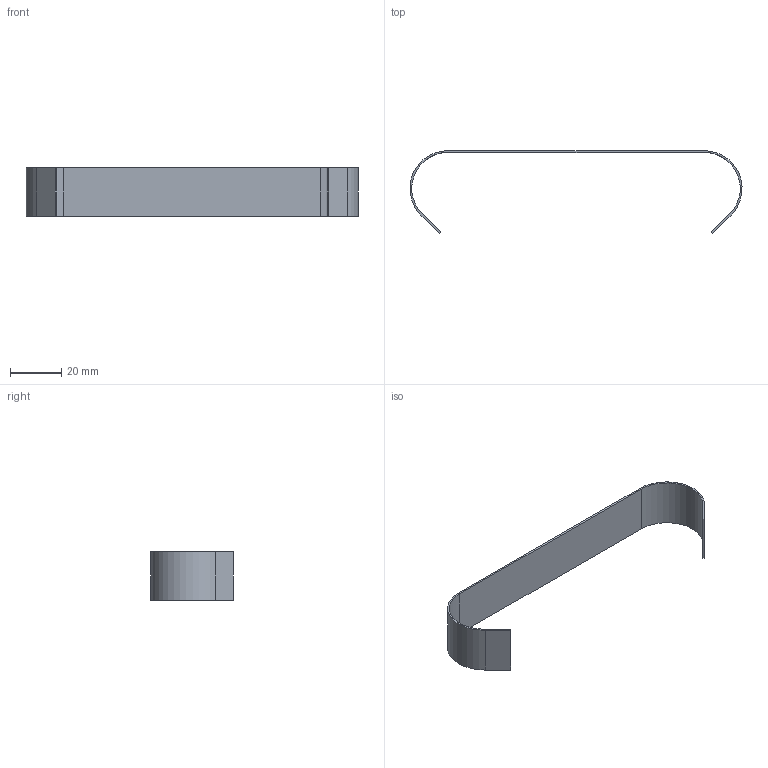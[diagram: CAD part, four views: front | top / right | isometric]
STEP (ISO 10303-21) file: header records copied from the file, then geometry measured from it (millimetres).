
FILE_DESCRIPTION((''),'2;1');
FILE_NAME('C:\Andys Backup Data\WEBSITE\DREAMWEAVER\MiniTec\Products\KanBan\CAD\Step\32.0571 BRAKE PLATE.stp','2013-04-02T11:27:50',('Admin'),(''),'Autodesk Inventor 2012','Autodesk Inventor 2012','');
FILE_SCHEMA(('AUTOMOTIVE_DESIGN { 1 0 10303 214 1 1 1 1 }'));
Length unit declared in the file: millimetre
Products named in the file (1): 32.0571 BRAKE PLATE
Bounding box: 129.35 x 32.17 x 19 mm (x, y, z)
Volume: 2495.4 mm3; surface area: 7418.9 mm2
Topology: 1 solids, 1 shells, 14 faces, 36 edges, 24 vertices
Faces by surface type: plane 10, cylinder 4
Entity records: 461 total; most frequent: CARTESIAN_POINT 75, DIRECTION 74, ORIENTED_EDGE 72, EDGE_CURVE 36, VECTOR 28, LINE 28, VERTEX_POINT 24, AXIS2_PLACEMENT_3D 23
